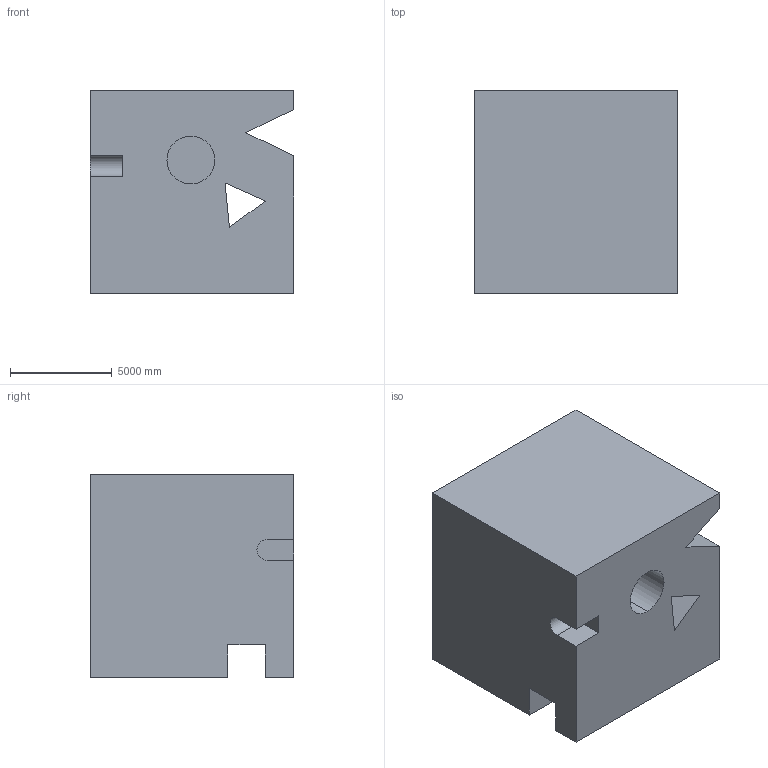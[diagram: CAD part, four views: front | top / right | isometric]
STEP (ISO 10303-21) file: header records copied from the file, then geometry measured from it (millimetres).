
FILE_DESCRIPTION (( 'STEP AP203' ), '1' );
FILE_NAME ('1471.STEP', '2022-08-18T14:40:42', ( 'user' ), ( '' ), 'SwSTEP 2.0', 'SolidWorks 2021', '' );
FILE_SCHEMA (( 'CONFIG_CONTROL_DESIGN' ));
Length unit declared in the file: centimetre
Products named in the file (1): 1471
Bounding box: 10000 x 10000 x 10000 mm (x, y, z)
Volume: 911646387108.4 mm3; surface area: 731411248.4 mm2
Topology: 1 solids, 1 shells, 23 faces, 60 edges, 40 vertices
Faces by surface type: plane 20, cylinder 3
Entity records: 781 total; most frequent: CARTESIAN_POINT 124, ORIENTED_EDGE 120, DIRECTION 114, EDGE_CURVE 60, LINE 54, VECTOR 54, VERTEX_POINT 40, AXIS2_PLACEMENT_3D 30
